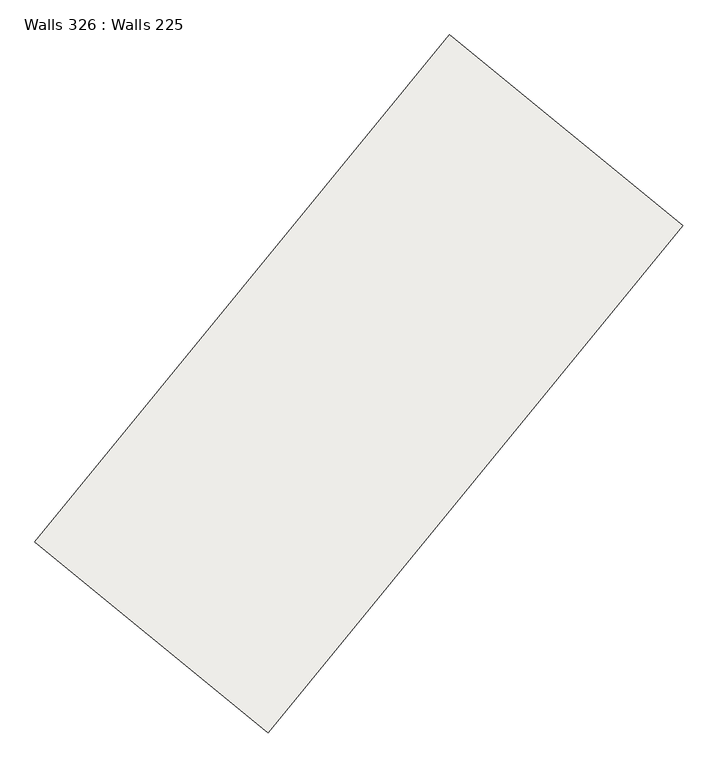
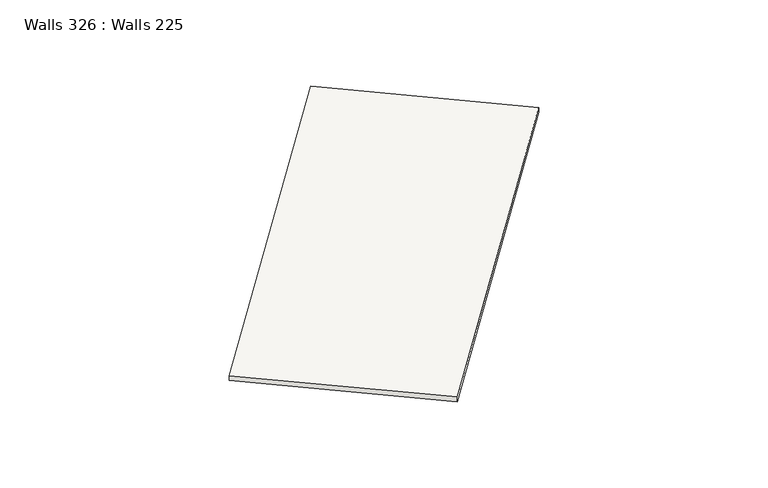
"""IFC4 building model written with IfcOpenShell, lengths in millimetres: slab geometry, Walls 326 : Walls 225."""

from ifc_helpers import new_model, si_unit, frame, origin, place, context, project, spatial, polyline, outline, extrude, source, transform, mapped, element, save


def walls_326_walls_225_7e22f6ce(model_context):
    return source(origin(), model_context, "Body", "SweptSolid", [
        extrude(outline(polyline([(-50.0, 0.0), (50.0, 0.0), (-62.0, -8699.9999994), (-162.0, -8699.9999994), (-50.0, 0.0)])), frame((407717.1884364, 277137.1887813, 645088.0), z_axis=(-0.7739621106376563, 0.6332319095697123, 0.0), x_axis=(0.0, 0.0, 1.0)), (0.0, 0.0, 1.0), 4000.0),
    ])


if __name__ == "__main__":
    model = new_model("IFC4")
    model_context = context("Model", 3, world=origin())
    ifc_project = project(units=[si_unit("LENGTHUNIT", "METRE", prefix="MILLI")], contexts=[model_context])
    site = spatial("IfcSite", under=ifc_project)
    building = spatial("IfcBuilding", under=site)
    placement = place(None, origin())
    walls_326_walls_225_shape = walls_326_walls_225_7e22f6ce(model_context)
    element("IfcSlab", 1, ObjectType="Walls 326 : Walls 225", at=placement, inside=building, context=model_context, shape_type="MappedRepresentation", body=[
        mapped(walls_326_walls_225_shape, transform((0.0, 0.0, 0.0), x_axis=(1.0, 0.0, 0.0), y_axis=(0.0, 1.0, 0.0), z_axis=(0.0, 0.0, 1.0))),
    ])
    save(model, "model.ifc")
